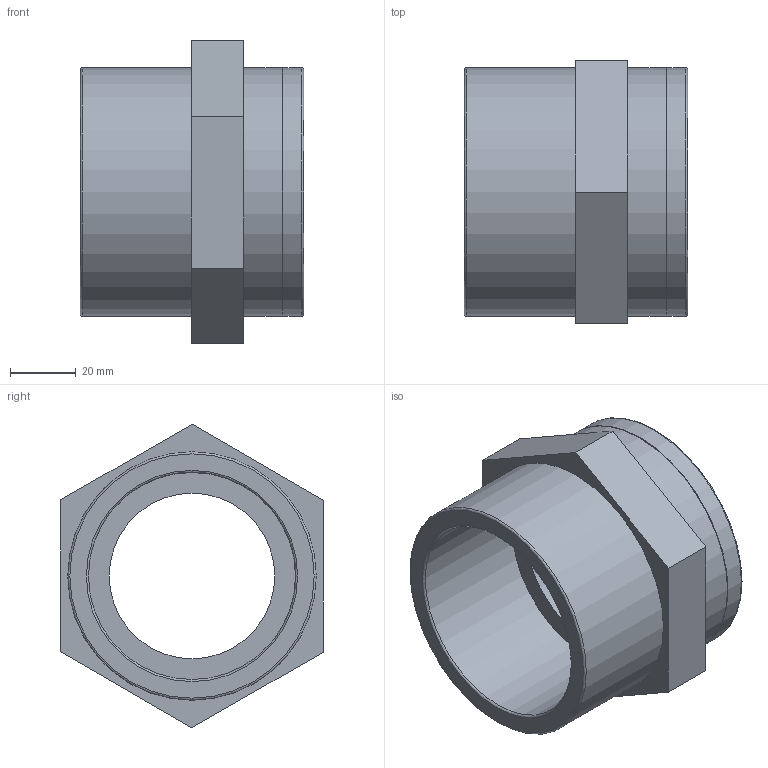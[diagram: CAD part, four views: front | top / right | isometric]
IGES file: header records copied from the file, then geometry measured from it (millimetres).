
Global section: file name: 057102063020.ipt; native system: Autodesk Inventor 2015; preprocessor: unknown; author: KIM; date: 20171207.165811; units: millimetre
Bounding box: 68 x 80.13 x 92.38 mm (x, y, z)
Volume: 130042.7 mm3; surface area: 36450.9 mm2
Topology: 1 solids, 1 shells, 24 faces, 61 edges, 43 vertices
Faces by surface type: plane 12, revolution 7, cylinder 3, cone 2
Full cylindrical faces by diameter (mm): 75.6 x3
